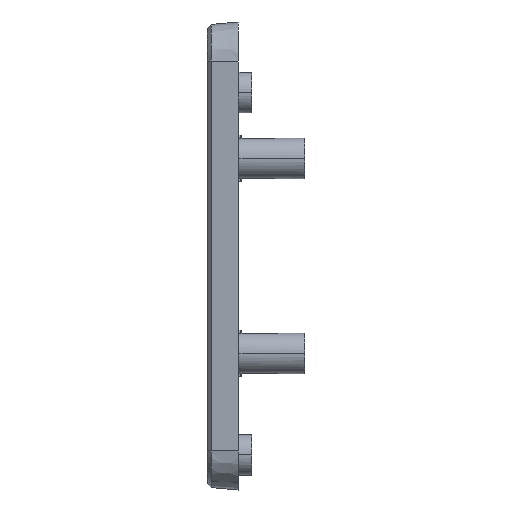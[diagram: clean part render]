
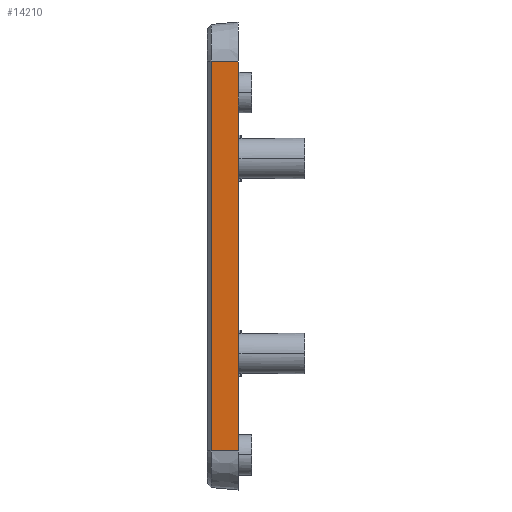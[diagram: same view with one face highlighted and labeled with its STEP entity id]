
A CAD part, left-side view. The second image highlights one B-rep face of the part: STEP entity #14210.
In plain terms, the highlighted planar face has unit normal (-0.996, 0.087, 0) as drawn and (0.996, 0, -0.087) by its records, which use the part's own axes.
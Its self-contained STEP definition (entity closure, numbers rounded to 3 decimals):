
#2343=DIRECTION('',(0.,1.,0.));
#2344=VECTOR('',#2343,50.);
#2345=CARTESIAN_POINT('',(43.,-25.,-7.9));
#2346=LINE('',#2345,#2344);
#4952=DIRECTION('',(0.,-1.,0.));
#4953=VECTOR('',#4952,50.);
#4954=CARTESIAN_POINT('',(42.694,25.,-11.402));
#4955=LINE('',#4954,#4953);
#4956=DIRECTION('',(-0.087,0.,-0.996));
#4957=VECTOR('',#4956,3.515);
#4958=CARTESIAN_POINT('',(43.,-25.,-7.9));
#4959=LINE('',#4958,#4957);
#4960=DIRECTION('',(-0.087,0.,-0.996));
#4961=VECTOR('',#4960,3.515);
#4962=CARTESIAN_POINT('',(43.,25.,-7.9));
#4963=LINE('',#4962,#4961);
#6708=CARTESIAN_POINT('',(43.,-25.,-7.9));
#6710=VERTEX_POINT('',#6708);
#6711=CARTESIAN_POINT('',(43.,25.,-7.9));
#6713=VERTEX_POINT('',#6711);
#6733=CARTESIAN_POINT('',(42.694,25.,-11.402));
#6734=VERTEX_POINT('',#6733);
#6737=CARTESIAN_POINT('',(42.694,-25.,
-11.402));
#6738=VERTEX_POINT('',#6737);
#14198=CARTESIAN_POINT('',(43.,-32.405,-7.9));
#14199=DIRECTION('',(0.996,0.,-0.087));
#14200=DIRECTION('',(0.,1.,0.));
#14201=AXIS2_PLACEMENT_3D('',#14198,#14199,#14200);
#14202=PLANE('',#14201);
#14203=ORIENTED_EDGE('',*,*,#14191,.T.);
#14204=ORIENTED_EDGE('',*,*,#14166,.F.);
#14205=ORIENTED_EDGE('',*,*,#10570,.T.);
#14207=ORIENTED_EDGE('',*,*,#14206,.T.);
#14208=EDGE_LOOP('',(#14203,#14204,#14205,#14207));
#14209=FACE_OUTER_BOUND('',#14208,.F.);
#10570=EDGE_CURVE('',#6710,#6713,#2346,.T.);
#14166=EDGE_CURVE('',#6710,#6738,#4959,.T.);
#14191=EDGE_CURVE('',#6734,#6738,#4955,.T.);
#14206=EDGE_CURVE('',#6713,#6734,#4963,.T.);
#14210=ADVANCED_FACE('',(#14209),#14202,.T.);
